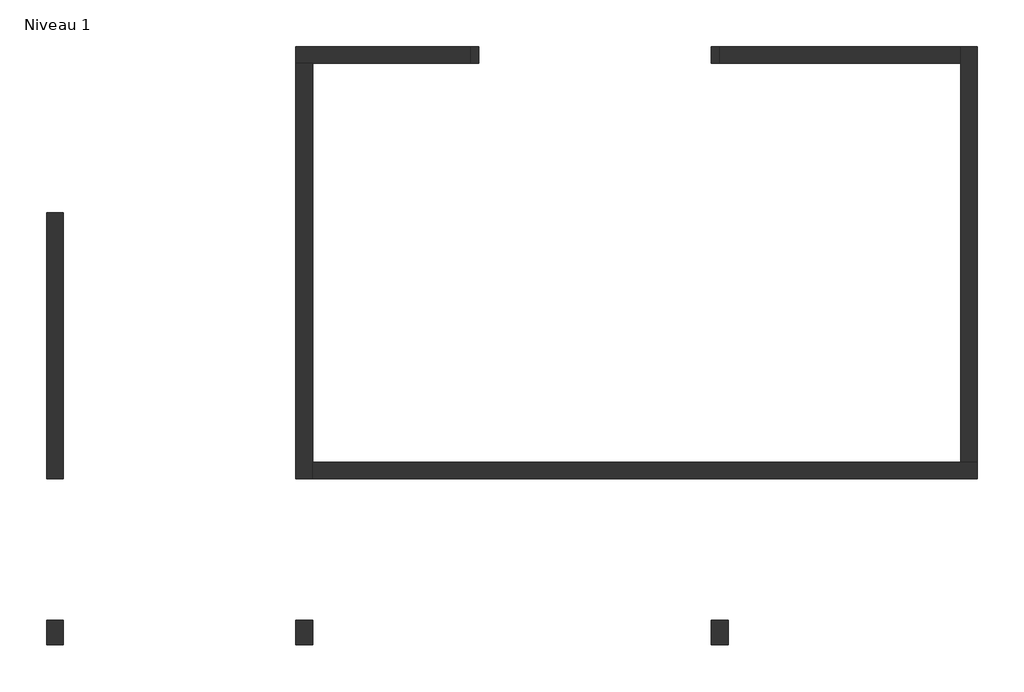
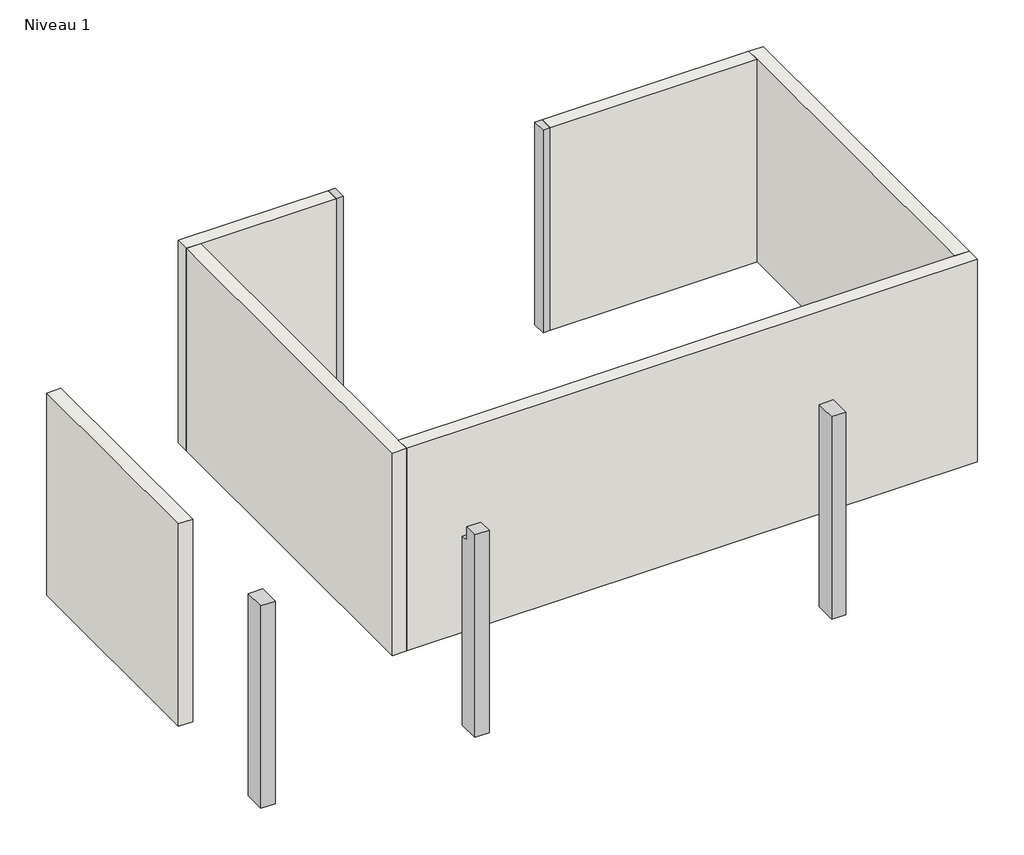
# One storey: 6 walls, 5 columns.
"""IFC4 building model written with IfcOpenShell, lengths in millimetres."""

from ifc_helpers import new_model, si_unit, frame, origin, place, context, project, spatial, polyline, outline, extrude, faceted_brep, element, save

model = new_model("IFC4")

# Units and contexts
model_context = context("Model", 3, world=origin())
ifc_project = project(units=[si_unit("LENGTHUNIT", "METRE", prefix="MILLI")], contexts=[model_context])

# Site, building, storey
site = spatial("IfcSite", under=ifc_project)
building = spatial("IfcBuilding", under=site)
storey = spatial("IfcBuildingStorey", under=building, Name="Niveau 1", Elevation=-3000.0)

# Columns
placement = place(None, origin())
element("IfcColumn", 1, ObjectType="EN_BETON - POTEAU v2016 : 200 x 200", at=placement, inside=storey, context=model_context, shape_type="Brep", body=[
    faceted_brep([(-6175.7482739, 4424.9077015, -3000.0), (-6175.7482739, 4224.9077015, -3000.0), (-6275.7482739, 4224.9077015, -3000.0), (-6275.7482739, 4424.9077015, -3000.0), (-6175.7482739, 4424.9077015, -400.0), (-6175.7482739, 4424.9077015, 0.0), (-6175.7482739, 4264.9077015, 0.0), (-6175.7482739, 4224.9077015, 0.0), (-6175.7482739, 4224.9077015, -400.0), (-6275.7482739, 4224.9077015, 0.0), (-6275.7482739, 4424.9077015, -200.0), (-6275.7482739, 4424.9077015, 0.0)], [[[0, 1, 2, 3]], [[1, 0, 4, 5, 6, 7, 8]], [[1, 8, 7, 9, 2]], [[5, 4, 0, 3, 10, 11]], [[7, 6, 5, 11, 9]], [[3, 2, 9, 11, 10]]]),
])
element("IfcColumn", 2, ObjectType="EN_BETON - POTEAU v2016 : 200 x 200", at=placement, inside=storey, context=model_context, shape_type="Brep", body=[
    faceted_brep([(-3375.7482739, 4224.9077015, -3000.0), (-3375.7482739, 4424.9077015, -3000.0), (-3275.7482739, 4424.9077015, -3000.0), (-3275.7482739, 4224.9077015, -3000.0), (-3375.7482739, 4224.9077015, 0.0), (-3375.7482739, 4224.9077015, -400.0), (-3275.7482739, 4224.9077015, 0.0), (-3375.7482739, 4424.9077015, 0.0), (-3375.7482739, 4424.9077015, -400.0), (-3355.7482739, 4424.9077015, 0.0), (-3275.7482739, 4424.9077015, 0.0), (-3275.7482739, 4424.9077015, -200.0)], [[[0, 1, 2, 3]], [[4, 5, 0, 3, 6]], [[1, 0, 5, 4, 7, 8]], [[1, 8, 7, 9, 10, 11, 2]], [[7, 4, 6, 10, 9]], [[3, 2, 11, 10, 6]]]),
])
element("IfcColumn", 3, ObjectType="EN_BETON - POTEAU v2016 : 200 x 300", at=placement, inside=storey, context=model_context, shape_type="Brep", body=[
    faceted_brep([(-11175.7482739, -2475.0922985, -3000.0), (-11175.7482739, -2775.0922985, -3000.0), (-11375.7482739, -2775.0922985, -3000.0), (-11375.7482739, -2475.0922985, -3000.0), (-11175.7482739, -2475.0922985, 0.0), (-11175.7482739, -2575.0922985, 0.0), (-11175.7482739, -2775.0922985, 0.0), (-11375.7482739, -2775.0922985, 0.0), (-11375.7482739, -2475.0922985, 0.0)], [[[0, 1, 2, 3]], [[4, 5, 6, 1, 0]], [[6, 7, 2, 1]], [[7, 8, 3, 2]], [[8, 4, 0, 3]], [[4, 8, 7, 6, 5]]]),
])
element("IfcColumn", 4, ObjectType="EN_BETON - POTEAU v2016 : 200 x 300", at=placement, inside=storey, context=model_context, shape_type="Brep", body=[
    faceted_brep([(-8175.7482739, -2475.0922985, -3000.0), (-8175.7482739, -2775.0922985, -3000.0), (-8375.7482739, -2775.0922985, -3000.0), (-8375.7482739, -2475.0922985, -3000.0), (-8175.7482739, -2475.0922985, -200.0), (-8175.7482739, -2575.0922985, -200.0), (-8175.7482739, -2575.0922985, 0.0), (-8175.7482739, -2775.0922985, 0.0), (-8215.7482739, -2775.0922985, 0.0), (-8375.7482739, -2775.0922985, 0.0), (-8375.7482739, -2575.0922985, 0.0), (-8375.7482739, -2575.0922985, -200.0), (-8375.7482739, -2475.0922985, -200.0)], [[[0, 1, 2, 3]], [[1, 0, 4, 5, 6, 7]], [[2, 1, 7, 8, 9]], [[3, 2, 9, 10, 11, 12]], [[0, 3, 12, 4]], [[9, 8, 7, 6, 10]], [[11, 5, 4, 12]], [[5, 11, 10, 6]]]),
])
element("IfcColumn", 5, ObjectType="EN_BETON - POTEAU v2016 : 200 x 300", at=placement, inside=storey, context=model_context, shape_type="Brep", body=[
    faceted_brep([(-3175.7482739, -2475.0922985, -3000.0), (-3175.7482739, -2775.0922985, -3000.0), (-3375.7482739, -2775.0922985, -3000.0), (-3375.7482739, -2475.0922985, -3000.0), (-3175.7482739, -2475.0922985, 0.0), (-3175.7482739, -2775.0922985, 0.0), (-3355.7482739, -2775.0922985, 0.0), (-3375.7482739, -2775.0922985, 0.0), (-3375.7482739, -2575.0922985, 0.0), (-3375.7482739, -2475.0922985, 0.0)], [[[0, 1, 2, 3]], [[4, 5, 1, 0]], [[5, 6, 7, 2, 1]], [[7, 8, 9, 3, 2]], [[9, 4, 0, 3]], [[4, 9, 8, 7, 6, 5]]]),
])

# Walls
element("IfcWall", 6, ObjectType="Générique - 200 mm", at=placement, inside=storey, context=model_context, shape_type="Brep", body=[
    faceted_brep([(-11375.7482739, 2424.9077015, -3000.0), (-11375.7482739, -775.0922985, -3000.0), (-11375.7482739, -775.0922985, -300.0), (-11375.7482739, -775.0922985, 0.0), (-11375.7482739, 2424.9077015, 0.0), (-11175.7482739, 2424.9077015, -3000.0), (-11175.7482739, 2424.9077015, 0.0), (-11175.7482739, -775.0922985, 0.0), (-11175.7482739, -775.0922985, -300.0), (-11175.7482739, -775.0922985, -3000.0)], [[[0, 1, 2, 3, 4]], [[5, 6, 7, 8, 9]], [[1, 0, 5, 9]], [[3, 2, 1, 9, 8, 7]], [[4, 3, 7, 6]], [[0, 4, 6, 5]]]),
])
element("IfcWall", 7, ObjectType="Générique - 200 mm", at=placement, inside=storey, context=model_context, shape_type="Brep", body=[
    faceted_brep([(-6275.7482739, 4424.9077015, -3000.0), (-8375.7482739, 4424.9077015, -3000.0), (-8375.7482739, 4424.9077015, 0.0), (-6275.7482739, 4424.9077015, 0.0), (-6275.7482739, 4224.9077015, -3000.0), (-6275.7482739, 4224.9077015, 0.0), (-8175.7482739, 4224.9077015, 0.0), (-8375.7482739, 4224.9077015, 0.0), (-8375.7482739, 4224.9077015, -3000.0), (-8175.7482739, 4224.9077015, -3000.0)], [[[0, 1, 2, 3]], [[4, 5, 6, 7, 8, 9]], [[1, 0, 4, 9, 8]], [[3, 2, 7, 6, 5]], [[0, 3, 5, 4]], [[2, 1, 8, 7]]]),
])
element("IfcWall", 8, ObjectType="Générique - 200 mm", at=placement, inside=storey, context=model_context, shape_type="Brep", body=[
    faceted_brep([(-8375.7482739, 4224.9077015, -3000.0), (-8375.7482739, -775.0922985, -3000.0), (-8375.7482739, -775.0922985, 0.0), (-8375.7482739, 4224.9077015, 0.0), (-8175.7482739, 4224.9077015, -3000.0), (-8175.7482739, 4224.9077015, 0.0), (-8175.7482739, -575.0922985, 0.0), (-8175.7482739, -775.0922985, 0.0), (-8175.7482739, -775.0922985, -3000.0), (-8175.7482739, -575.0922985, -3000.0)], [[[0, 1, 2, 3]], [[4, 5, 6, 7, 8, 9]], [[1, 0, 4, 9, 8]], [[3, 2, 7, 6, 5]], [[0, 3, 5, 4]], [[2, 1, 8, 7]]]),
])
element("IfcWall", 9, ObjectType="Générique - 200 mm", at=placement, inside=storey, context=model_context, shape_type="Brep", body=[
    faceted_brep([(-8175.7482739, -775.0922985, -3000.0), (-175.7482739, -775.0922985, -3000.0), (-175.7482739, -775.0922985, 0.0), (-8175.7482739, -775.0922985, 0.0), (-8175.7482739, -575.0922985, -3000.0), (-8175.7482739, -575.0922985, 0.0), (-375.7482739, -575.0922985, 0.0), (-175.7482739, -575.0922985, 0.0), (-175.7482739, -575.0922985, -3000.0), (-375.7482739, -575.0922985, -3000.0)], [[[0, 1, 2, 3]], [[4, 5, 6, 7, 8, 9]], [[1, 0, 4, 9, 8]], [[3, 2, 7, 6, 5]], [[0, 3, 5, 4]], [[2, 1, 8, 7]]]),
])
element("IfcWall", 10, ObjectType="Générique - 200 mm", at=placement, inside=storey, context=model_context, shape_type="Brep", body=[
    faceted_brep([(-175.7482739, -575.0922985, -3000.0), (-175.7482739, 4424.9077015, -3000.0), (-175.7482739, 4424.9077015, 0.0), (-175.7482739, -575.0922985, 0.0), (-375.7482739, -575.0922985, -3000.0), (-375.7482739, -575.0922985, 0.0), (-375.7482739, 4224.9077015, 0.0), (-375.7482739, 4424.9077015, 0.0), (-375.7482739, 4424.9077015, -3000.0), (-375.7482739, 4224.9077015, -3000.0)], [[[0, 1, 2, 3]], [[4, 5, 6, 7, 8, 9]], [[1, 0, 4, 9, 8]], [[3, 2, 7, 6, 5]], [[0, 3, 5, 4]], [[2, 1, 8, 7]]]),
])
element("IfcWall", 11, ObjectType="Générique - 200 mm", at=placement, inside=storey, context=model_context, shape_type="SweptSolid", body=[
    extrude(outline(polyline([(-3275.7482739, 4424.9077015), (-375.7482739, 4424.9077015), (-375.7482739, 4224.9077015), (-3275.7482739, 4224.9077015), (-3275.7482739, 4424.9077015)])), frame((0.0, 0.0, -3000.0), z_axis=(0.0, 0.0, 1.0), x_axis=(1.0, 0.0, 0.0)), (0.0, 0.0, 1.0), 3000.0),
])

save(model, "model.ifc")
